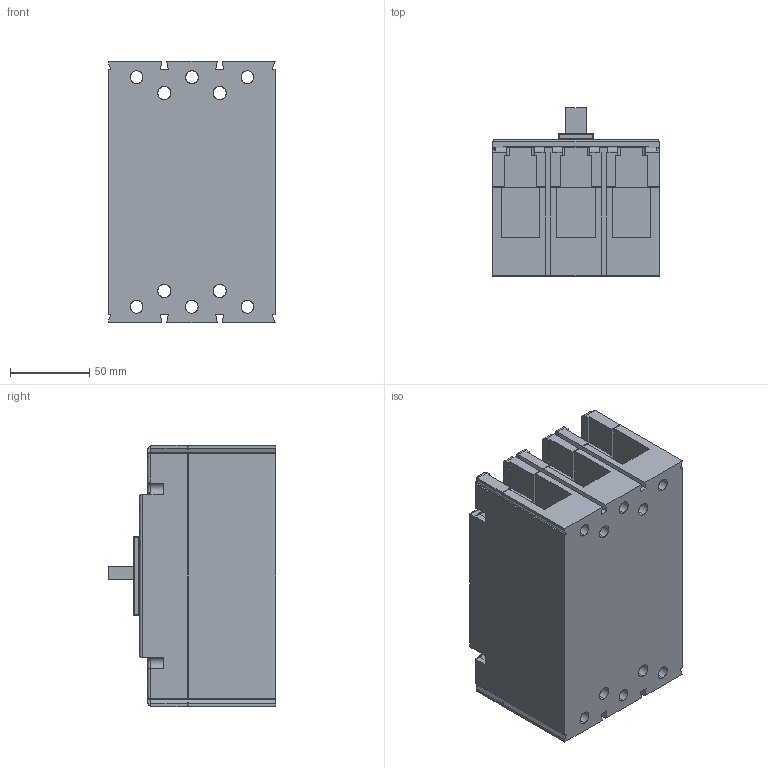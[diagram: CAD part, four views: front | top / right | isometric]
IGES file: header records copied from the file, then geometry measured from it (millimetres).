
Start section: SolidWorks IGES file using analytic representation for surfaces
Global section: file name: Q:\GROUPS\BR_SC_JGS_WA_TECNICO\ENG\Usuarios\Rodrigob\conversão\Linha Predial\Produto\Disjuntores DWP\DWP225\DWP225.IGS; native system: SolidWorks 2012; preprocessor: SolidWorks 2012; author: rodrigob; date: 120830.163716; units: millimetre
Bounding box: 105 x 106 x 165 mm (x, y, z)
Surface area: 116740.6 mm2 (no closed solid volume)
Topology: 0 solids, 0 shells, 423 faces, 4340 edges, 4334 vertices
Faces by surface type: bspline 317, revolution 106
